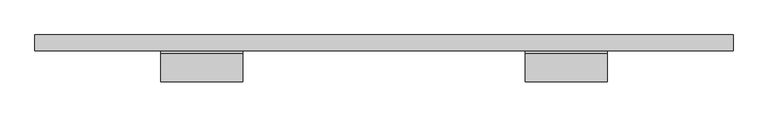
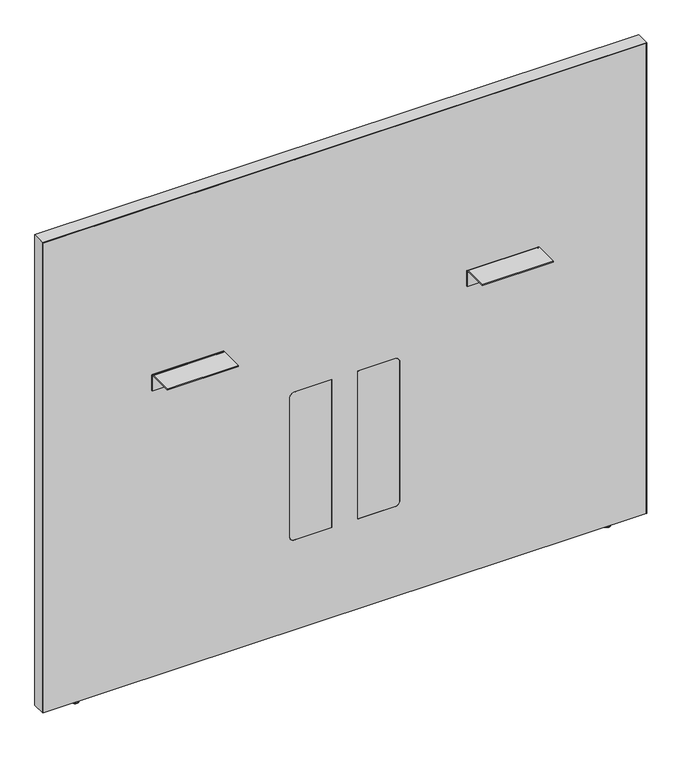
"""IFC4 building model written with IfcOpenShell, lengths in millimetres: furniture geometry, Steelcase - Answer Solution - Boundary Screen - Straight - Spanning : 42H x 51W."""

from ifc_helpers import new_model, si_unit, point, frame, frame_2d, origin, place, context, project, spatial, polyline, circle_curve, ellipse_curve, trimmed, segment, composite_curve, outline, extrude, source, transform, mapped, element, save
from ifc_brep_helpers import plane_surface, cylinder_surface, revolved_surface, advanced_brep


def furniture_0ecd512c(model_context):
    return source(origin(), model_context, "Body", "SolidModel", [
        advanced_brep(
        [(-340.6902705, -14.8449166, 9.9059849), (-340.6902705, -5.9309607, 9.9059849), (-340.6902705, -23.7588726, 9.9059849), (-340.6902705, -5.9309607, 2.9673238), (-340.6902705, -23.7588726, 2.9673238), (-340.6902705, -6.8982978, 2.9673238), (-340.6902705, -22.7915354, 2.9673238), (-340.6902705, -6.8982978, 1.6569081), (-340.6902705, -22.7915354, 1.6569081), (-340.6902705, -8.5552059, 0.0), (-340.6902705, -21.1346274, 0.0), (-340.6902705, -14.8449166, 0.0)],
        [
            (0, 1),
            (1, 2, circle_curve(frame((-340.6902705, -14.8449166, 9.9059849), z_axis=(0.0, 0.0, 1.0), x_axis=(0.0, 1.0, 0.0)), 8.913956)),
            (2, 0),
            (2, 1, circle_curve(frame((-340.6902705, -14.8449166, 9.9059849), z_axis=(0.0, 0.0, 1.0), x_axis=(0.0, 1.0, 0.0)), 8.913956)),
            (1, 3),
            (3, 4, circle_curve(frame((-340.6902705, -14.8449166, 2.9673238), z_axis=(0.0, 0.0, 1.0), x_axis=(0.0, 1.0, 0.0)), 8.913956)),
            (4, 2),
            (4, 3, circle_curve(frame((-340.6902705, -14.8449166, 2.9673238), z_axis=(0.0, 0.0, 1.0), x_axis=(0.0, 1.0, 0.0)), 8.913956)),
            (3, 5),
            (5, 6, circle_curve(frame((-340.6902705, -14.8449166, 2.9673238), z_axis=(0.0, 0.0, 1.0), x_axis=(0.0, 1.0, 0.0)), 7.9466188)),
            (6, 4),
            (6, 5, circle_curve(frame((-340.6902705, -14.8449166, 2.9673238), z_axis=(0.0, 0.0, 1.0), x_axis=(0.0, 1.0, 0.0)), 7.9466188)),
            (5, 7),
            (7, 8, circle_curve(frame((-340.6902705, -14.8449166, 1.6569081), z_axis=(0.0, 0.0, 1.0), x_axis=(0.0, 1.0, 0.0)), 7.9466188)),
            (8, 6),
            (8, 7, circle_curve(frame((-340.6902705, -14.8449166, 1.6569081), z_axis=(0.0, 0.0, 1.0), x_axis=(0.0, 1.0, 0.0)), 7.9466188)),
            (7, 9, circle_curve(frame((-340.6902705, -8.5552059, 1.6569081), z_axis=(-1.0, 0.0, 0.0), x_axis=(0.0, 1.0, 0.0)), 1.6569081)),
            (9, 10, circle_curve(frame((-340.6902705, -14.8449166, 0.0), z_axis=(0.0, 0.0, 1.0), x_axis=(0.0, 1.0, 0.0)), 6.2897107)),
            (10, 8, circle_curve(frame((-340.6902705, -21.1346274, 1.6569081), z_axis=(-1.0, 0.0, 0.0), x_axis=(0.0, -1.0, 0.0)), 1.6569081)),
            (10, 9, circle_curve(frame((-340.6902705, -14.8449166, 0.0), z_axis=(0.0, 0.0, 1.0), x_axis=(0.0, 1.0, 0.0)), 6.2897107)),
            (9, 11),
            (11, 10),
        ],
        [
            plane_surface(frame((-340.6902705, -14.8449166, 9.9059849), z_axis=(0.0, 0.0, 1.0), x_axis=(0.0, 1.0, 0.0))),
            cylinder_surface(frame((-340.6902705, -14.8449166, 9.9059849), z_axis=(0.0, 0.0, 1.0), x_axis=(0.0, 1.0, 0.0)), 8.913956),
            plane_surface(frame((-340.6902705, -14.8449166, 2.9673238), z_axis=(0.0, 0.0, -1.0), x_axis=(0.0, 1.0, 0.0))),
            cylinder_surface(frame((-340.6902705, -14.8449166, 9.9059849), z_axis=(0.0, 0.0, 1.0), x_axis=(0.0, 1.0, 0.0)), 7.9466188),
            revolved_surface(trimmed(ellipse_curve(frame((-340.6902705, -8.5552059, 1.6569081), z_axis=(1.0, 0.0, 0.0), x_axis=(0.0, 1.0, 0.0)), 1.6569081, 1.6569081), [point((-340.6902705, -8.5552059, 0.0))], [point((-340.6902705, -6.8982978, 1.6569081))], True, "CARTESIAN"), (-340.6902705, -14.8449166, 9.9059849), (0.0, 0.0, 1.0)),
            plane_surface(frame((-340.6902705, -14.8449166, 0.0), z_axis=(0.0, 0.0, -1.0), x_axis=(0.0, 1.0, 0.0))),
        ],
        [
            (0, [[1, 2, 3]]),
            (0, [[-3, 4, -1]]),
            (1, [[-2, 5, 6, 7]]),
            (1, [[-4, -7, 8, -5]]),
            (2, [[-6, 9, 10, 11]]),
            (2, [[-8, -11, 12, -9]]),
            (3, [[-10, 13, 14, 15]]),
            (3, [[-12, -15, 16, -13]]),
            (4, [[-14, 17, 18, 19]]),
            (4, [[-16, -19, 20, -17]]),
            (5, [[-18, 21, 22]]),
            (5, [[-20, -22, -21]]),
        ],
    ),
        extrude(outline(composite_curve([segment(polyline([(-86.8398151, 696.4680019), (-86.8398151, 698.5), (-34.9450855, 698.5)]), True, "CONTINUOUS"), segment(trimmed(circle_curve(frame_2d((-34.9450855, 693.2447477)), 5.2552523), [point((-34.9450855, 698.5))], [point((-29.6898332, 693.2447477))], False, "CARTESIAN"), True, "CONTINUOUS"), segment(polyline([(-29.6898332, 693.2447477), (-29.6898332, 660.4), (-31.7218162, 660.4), (-31.7218162, 693.0058743)]), True, "CONTINUOUS"), segment(trimmed(circle_curve(frame_2d((-35.1839438, 693.0058743)), 3.4621276), [point((-31.7218162, 693.0058743))], [point((-35.1839438, 696.4680019))], True, "CARTESIAN"), True, "CONTINUOUS"), segment(polyline([(-35.1839438, 696.4680019), (-86.8398151, 696.4680019)]), True, "CONTINUOUS")], self_intersect=False)), frame((491.6282189, 0.0, 0.0), z_axis=(1.0, 0.0, 0.0), x_axis=(0.0, 1.0, 0.0)), (0.0, 0.0, 1.0), 152.4000969),
        extrude(outline(composite_curve([segment(polyline([(-86.8398151, 696.4680019), (-86.8398151, 698.5), (-34.9450855, 698.5)]), True, "CONTINUOUS"), segment(trimmed(circle_curve(frame_2d((-34.9450855, 693.2447477)), 5.2552523), [point((-34.9450855, 698.5))], [point((-29.6898332, 693.2447477))], False, "CARTESIAN"), True, "CONTINUOUS"), segment(polyline([(-29.6898332, 693.2447477), (-29.6898332, 660.4), (-31.7218162, 660.4), (-31.7218162, 693.0058743)]), True, "CONTINUOUS"), segment(trimmed(circle_curve(frame_2d((-35.1839438, 693.0058743)), 3.4621276), [point((-31.7218162, 693.0058743))], [point((-35.1839438, 696.4680019))], True, "CARTESIAN"), True, "CONTINUOUS"), segment(polyline([(-35.1839438, 696.4680019), (-86.8398151, 696.4680019)]), True, "CONTINUOUS")], self_intersect=False)), frame((-184.3884581, 0.0, 0.0), z_axis=(1.0, 0.0, 0.0), x_axis=(0.0, 1.0, 0.0)), (0.0, 0.0, 1.0), 152.4000969),
        advanced_brep(
        [(800.3286488, -23.7588726, 9.9059849), (800.3286488, -5.9309607, 9.9059849), (800.3286488, -14.8449166, 9.9059849), (800.3286488, -23.7588726, 2.9673238), (800.3286488, -5.9309607, 2.9673238), (800.3286488, -22.7915354, 2.9673238), (800.3286488, -6.8982978, 2.9673238), (800.3286488, -22.7915354, 1.6569081), (800.3286488, -6.8982978, 1.6569081), (800.3286488, -21.1346274, 0.0), (800.3286488, -8.5552059, 0.0), (800.3286488, -14.8449166, 0.0)],
        [
            (0, 1, circle_curve(frame((800.3286488, -14.8449166, 9.9059849), z_axis=(0.0, 0.0, 1.0), x_axis=(0.0, 1.0, 0.0)), 8.913956)),
            (1, 2),
            (2, 0),
            (1, 0, circle_curve(frame((800.3286488, -14.8449166, 9.9059849), z_axis=(0.0, 0.0, 1.0), x_axis=(0.0, 1.0, 0.0)), 8.913956)),
            (3, 4, circle_curve(frame((800.3286488, -14.8449166, 2.9673238), z_axis=(0.0, 0.0, 1.0), x_axis=(0.0, 1.0, 0.0)), 8.913956)),
            (4, 1),
            (0, 3),
            (4, 3, circle_curve(frame((800.3286488, -14.8449166, 2.9673238), z_axis=(0.0, 0.0, 1.0), x_axis=(0.0, 1.0, 0.0)), 8.913956)),
            (5, 6, circle_curve(frame((800.3286488, -14.8449166, 2.9673238), z_axis=(0.0, 0.0, 1.0), x_axis=(0.0, 1.0, 0.0)), 7.9466188)),
            (6, 4),
            (3, 5),
            (6, 5, circle_curve(frame((800.3286488, -14.8449166, 2.9673238), z_axis=(0.0, 0.0, 1.0), x_axis=(0.0, 1.0, 0.0)), 7.9466188)),
            (7, 8, circle_curve(frame((800.3286488, -14.8449166, 1.6569081), z_axis=(0.0, 0.0, 1.0), x_axis=(0.0, 1.0, 0.0)), 7.9466188)),
            (8, 6),
            (5, 7),
            (8, 7, circle_curve(frame((800.3286488, -14.8449166, 1.6569081), z_axis=(0.0, 0.0, 1.0), x_axis=(0.0, 1.0, 0.0)), 7.9466188)),
            (9, 10, circle_curve(frame((800.3286488, -14.8449166, 0.0), z_axis=(0.0, 0.0, 1.0), x_axis=(0.0, 1.0, 0.0)), 6.2897107)),
            (10, 8, circle_curve(frame((800.3286488, -8.5552059, 1.6569081), z_axis=(1.0, 0.0, 0.0), x_axis=(0.0, 1.0, 0.0)), 1.6569081)),
            (7, 9, circle_curve(frame((800.3286488, -21.1346274, 1.6569081), z_axis=(1.0, 0.0, 0.0), x_axis=(0.0, -1.0, 0.0)), 1.6569081)),
            (10, 9, circle_curve(frame((800.3286488, -14.8449166, 0.0), z_axis=(0.0, 0.0, 1.0), x_axis=(0.0, 1.0, 0.0)), 6.2897107)),
            (11, 10),
            (9, 11),
        ],
        [
            plane_surface(frame((800.3286488, -14.8449166, 9.9059849), z_axis=(0.0, 0.0, 1.0), x_axis=(0.0, 1.0, 0.0))),
            cylinder_surface(frame((800.3286488, -14.8449166, 9.9059849), z_axis=(0.0, 0.0, -1.0), x_axis=(0.0, 1.0, 0.0)), 8.913956),
            plane_surface(frame((800.3286488, -14.8449166, 2.9673238), z_axis=(0.0, 0.0, -1.0), x_axis=(0.0, 1.0, 0.0))),
            cylinder_surface(frame((800.3286488, -14.8449166, 9.9059849), z_axis=(0.0, 0.0, -1.0), x_axis=(0.0, 1.0, 0.0)), 7.9466188),
            revolved_surface(trimmed(ellipse_curve(frame((800.3286488, -8.5552059, 1.6569081), z_axis=(-1.0, 0.0, 0.0), x_axis=(0.0, 1.0, 0.0)), 1.6569081, 1.6569081), [point((800.3286488, -6.8982978, 1.6569081))], [point((800.3286488, -8.5552059, 0.0))], True, "CARTESIAN"), (800.3286488, -14.8449166, 9.9059849), (0.0, 0.0, -1.0)),
            plane_surface(frame((800.3286488, -14.8449166, 0.0), z_axis=(0.0, 0.0, -1.0), x_axis=(0.0, 1.0, 0.0))),
        ],
        [
            (0, [[1, 2, 3]]),
            (0, [[4, -3, -2]]),
            (1, [[5, 6, -1, 7]]),
            (1, [[8, -7, -4, -6]]),
            (2, [[9, 10, -5, 11]]),
            (2, [[12, -11, -8, -10]]),
            (3, [[13, 14, -9, 15]]),
            (3, [[16, -15, -12, -14]]),
            (4, [[17, 18, -13, 19]]),
            (4, [[20, -19, -16, -18]]),
            (5, [[21, -17, 22]]),
            (5, [[-22, -20, -21]]),
        ],
    ),
        advanced_brep(
        [(876.4780168, 0.0, 1076.742118), (876.4780168, 0.0, 9.9059849), (-416.8902221, 0.0, 9.9059849), (-416.8902221, 0.0, 1076.742118), (876.4780168, -29.6898332, 1076.742118), (-416.8902221, -29.6898332, 1076.742118), (-416.8902221, -29.6898332, 9.9059849), (876.4780168, -29.6898332, 9.9059849), (337.7883813, -29.6898332, 549.6162029), (347.9483813, -29.6898332, 539.4562029), (347.9483813, -29.6898332, 223.9362137), (337.7883813, -29.6898332, 213.7762137), (258.1344836, -29.6898332, 213.7762137), (258.1344836, -29.6898332, 549.6162029), (121.849997, -29.6898332, 549.6162029), (201.5038947, -29.6898332, 549.6162029), (201.5038947, -29.6898332, 213.7762137), (121.849997, -29.6898332, 213.7762137), (111.689997, -29.6898332, 223.9362137), (111.689997, -29.6898332, 539.4562029), (258.1344836, -29.0550397, 549.6162029), (337.7883813, -29.0550397, 549.6162029), (258.1344836, -29.0550397, 213.7762137), (337.7883813, -29.0550397, 213.7762137), (347.9483813, -29.0550397, 223.9362137), (347.9483813, -29.0550397, 539.4562029), (121.849997, -29.0550397, 549.6162029), (111.689997, -29.0550397, 539.4562029), (111.689997, -29.0550397, 223.9362137), (121.849997, -29.0550397, 213.7762137), (201.5038947, -29.0550397, 213.7762137), (201.5038947, -29.0550397, 549.6162029)],
        [
            (0, 1),
            (1, 2),
            (2, 3),
            (3, 0),
            (4, 5),
            (5, 6),
            (6, 7),
            (7, 4),
            (8, 9, circle_curve(frame((337.7883813, -29.6898332, 539.4562029), z_axis=(0.0, 1.0, 0.0), x_axis=(0.0, 0.0, 1.0)), 10.16)),
            (9, 10),
            (10, 11, circle_curve(frame((337.7883813, -29.6898332, 223.9362137), z_axis=(0.0, 1.0, 0.0), x_axis=(0.0, 0.0, 1.0)), 10.16)),
            (11, 12),
            (12, 13),
            (13, 8),
            (14, 15),
            (15, 16),
            (16, 17),
            (17, 18, circle_curve(frame((121.849997, -29.6898332, 223.9362137), z_axis=(0.0, 1.0, 0.0), x_axis=(0.0, 0.0, 1.0)), 10.16)),
            (18, 19),
            (19, 14, circle_curve(frame((121.849997, -29.6898332, 539.4562029), z_axis=(0.0, 1.0, 0.0), x_axis=(0.0, 0.0, 1.0)), 10.16)),
            (0, 4),
            (7, 1),
            (6, 2),
            (5, 3),
            (13, 20),
            (20, 21),
            (21, 8),
            (12, 22),
            (22, 20),
            (11, 23),
            (23, 22),
            (10, 24),
            (24, 23, circle_curve(frame((337.7883813, -29.0550397, 223.9362137), z_axis=(0.0, 1.0, 0.0), x_axis=(0.0, 0.0, 1.0)), 10.16)),
            (9, 25),
            (25, 24),
            (21, 25, circle_curve(frame((337.7883813, -29.0550397, 539.4562029), z_axis=(0.0, 1.0, 0.0), x_axis=(0.0, 0.0, 1.0)), 10.16)),
            (26, 27, circle_curve(frame((121.849997, -29.0550397, 539.4562029), z_axis=(0.0, -1.0, 0.0), x_axis=(0.0, 0.0, 1.0)), 10.16)),
            (27, 28),
            (28, 29, circle_curve(frame((121.849997, -29.0550397, 223.9362137), z_axis=(0.0, -1.0, 0.0), x_axis=(0.0, 0.0, 1.0)), 10.16)),
            (29, 30),
            (30, 31),
            (31, 26),
            (19, 27),
            (26, 14),
            (18, 28),
            (17, 29),
            (16, 30),
            (15, 31),
        ],
        [
            plane_surface(frame((876.4780168, 0.0, 1076.742118), z_axis=(0.0, 1.0, 0.0), x_axis=(0.0, 0.0, -1.0))),
            plane_surface(frame((876.4780168, -29.6898332, 1076.742118), z_axis=(0.0, -1.0, 0.0), x_axis=(0.0, 0.0, 1.0))),
            plane_surface(frame((876.4780168, 0.0, 1076.742118), z_axis=(1.0, 0.0, 0.0), x_axis=(0.0, -1.0, 0.0))),
            plane_surface(frame((876.4780168, 0.0, 9.9059849), z_axis=(0.0, 0.0, -1.0), x_axis=(0.0, -1.0, 0.0))),
            plane_surface(frame((-416.8902221, 0.0, 9.9059849), z_axis=(-1.0, 0.0, 0.0), x_axis=(0.0, -1.0, 0.0))),
            plane_surface(frame((-416.8902221, 0.0, 1076.742118), z_axis=(0.0, 0.0, 1.0), x_axis=(0.0, -1.0, 0.0))),
            plane_surface(frame((337.7883813, 0.0, 549.6162029), z_axis=(0.0, 0.0, -1.0), x_axis=(0.0, -1.0, 0.0))),
            plane_surface(frame((258.1344836, 0.0, 549.6162029), z_axis=(1.0, 0.0, 0.0), x_axis=(0.0, -1.0, 0.0))),
            plane_surface(frame((258.1344836, 0.0, 213.7762137), z_axis=(0.0, 0.0, 1.0), x_axis=(0.0, -1.0, 0.0))),
            revolved_surface(polyline([(337.7883813, -29.6898332, 234.0962137), (337.7883813, -29.0550397, 234.0962137)]), (337.7883813, -29.6898332, 223.9362137), (0.0, -1.0, 0.0)),
            plane_surface(frame((347.9483813, 0.0, 223.9362137), z_axis=(-1.0, 0.0, 0.0), x_axis=(0.0, -1.0, 0.0))),
            revolved_surface(polyline([(337.7883813, -29.6898332, 549.6162029), (337.7883813, -29.0550397, 549.6162029)]), (337.7883813, -29.6898332, 539.4562029), (0.0, -1.0, 0.0)),
            plane_surface(frame((347.9483813, -29.0550397, 549.6162029), z_axis=(0.0, -1.0, 0.0), x_axis=(0.0, 0.0, 1.0))),
            revolved_surface(polyline([(121.849997, -29.6898332, 549.6162029), (121.849997, -29.0550397, 549.6162029)]), (121.849997, -29.6898332, 539.4562029), (0.0, -1.0, 0.0)),
            plane_surface(frame((111.689997, 0.0, 539.4562029), z_axis=(1.0, 0.0, 0.0), x_axis=(0.0, -1.0, 0.0))),
            revolved_surface(polyline([(121.849997, -29.6898332, 234.0962137), (121.849997, -29.0550397, 234.0962137)]), (121.849997, -29.6898332, 223.9362137), (0.0, -1.0, 0.0)),
            plane_surface(frame((121.849997, 0.0, 213.7762137), z_axis=(0.0, 0.0, 1.0), x_axis=(0.0, -1.0, 0.0))),
            plane_surface(frame((201.5038947, 0.0, 213.7762137), z_axis=(-1.0, 0.0, 0.0), x_axis=(0.0, -1.0, 0.0))),
            plane_surface(frame((201.5038947, 0.0, 549.6162029), z_axis=(0.0, 0.0, -1.0), x_axis=(0.0, -1.0, 0.0))),
        ],
        [
            (0, [[1, 2, 3, 4]]),
            (1, [[5, 6, 7, 8], [9, 10, 11, 12, 13, 14], [15, 16, 17, 18, 19, 20]]),
            (2, [[-1, 21, -8, 22]]),
            (3, [[-2, -22, -7, 23]]),
            (4, [[-3, -23, -6, 24]]),
            (5, [[-4, -24, -5, -21]]),
            (6, [[-14, 25, 26, 27]]),
            (7, [[-13, 28, 29, -25]]),
            (8, [[-12, 30, 31, -28]]),
            (9, [[-11, 32, 33, -30]]),
            (10, [[-10, 34, 35, -32]]),
            (11, [[-9, -27, 36, -34]]),
            (12, [[-26, -29, -31, -33, -35, -36]]),
            (12, [[37, 38, 39, 40, 41, 42]]),
            (13, [[-20, 43, -37, 44]]),
            (14, [[-19, 45, -38, -43]]),
            (15, [[-18, 46, -39, -45]]),
            (16, [[-17, 47, -40, -46]]),
            (17, [[-16, 48, -41, -47]]),
            (18, [[-15, -44, -42, -48]]),
        ],
    ),
        extrude(outline(composite_curve([segment(polyline([(549.6162029, 337.7883813), (549.6162029, 258.1344836), (213.7762137, 258.1344836), (213.7762137, 337.7883813)]), True, "CONTINUOUS"), segment(trimmed(circle_curve(frame_2d((223.9362137, 337.7883813)), 10.16), [point((213.7762137, 337.7883813))], [point((223.9362137, 347.9483813))], False, "CARTESIAN"), True, "CONTINUOUS"), segment(polyline([(223.9362137, 347.9483813), (539.4562029, 347.9483813)]), True, "CONTINUOUS"), segment(trimmed(circle_curve(frame_2d((539.4562029, 337.7883813)), 10.16), [point((539.4562029, 347.9483813))], [point((549.6162029, 337.7883813))], False, "CARTESIAN"), True, "CONTINUOUS")], self_intersect=False)), frame((0.0, -29.6898332, 0.0), z_axis=(0.0, 1.0, 0.0), x_axis=(0.0, 0.0, 1.0)), (0.0, 0.0, 1.0), 0.6347935),
        extrude(outline(composite_curve([segment(trimmed(circle_curve(frame_2d((539.4562029, 121.849997)), 10.16), [point((549.6162029, 121.849997))], [point((539.4562029, 111.689997))], False, "CARTESIAN"), True, "CONTINUOUS"), segment(polyline([(539.4562029, 111.689997), (223.9362137, 111.689997)]), True, "CONTINUOUS"), segment(trimmed(circle_curve(frame_2d((223.9362137, 121.849997)), 10.16), [point((223.9362137, 111.689997))], [point((213.7762137, 121.849997))], False, "CARTESIAN"), True, "CONTINUOUS"), segment(polyline([(213.7762137, 121.849997), (213.7762137, 201.5038947), (549.6162029, 201.5038947), (549.6162029, 121.849997)]), True, "CONTINUOUS")], self_intersect=False)), frame((0.0, -29.6898332, 0.0), z_axis=(0.0, 1.0, 0.0), x_axis=(0.0, 0.0, 1.0)), (0.0, 0.0, 1.0), 0.6347935),
        extrude(outline(polyline([(1077.722, 877.5191891), (1077.722, -417.8808109), (9.9059849, -417.8808109), (9.9059849, -416.8902221), (1076.742118, -416.8902221), (1076.742118, 876.4780168), (9.9059849, 876.4780168), (9.9059849, 877.5191891), (1077.722, 877.5191891)])), frame((0.0, -29.6898332, 0.0), z_axis=(0.0, 1.0, 0.0), x_axis=(0.0, 0.0, 1.0)), (0.0, 0.0, 1.0), 29.6898332),
    ])


if __name__ == "__main__":
    model = new_model("IFC4")
    model_context = context("Model", 3, world=origin())
    ifc_project = project(units=[si_unit("LENGTHUNIT", "METRE", prefix="MILLI")], contexts=[model_context])
    site = spatial("IfcSite", under=ifc_project)
    building = spatial("IfcBuilding", under=site)
    placement = place(None, origin())
    furniture_shape = furniture_0ecd512c(model_context)
    element("IfcFurniture", 1, ObjectType="Steelcase - Answer Solution - Boundary Screen - Straight - Spanning : 42H x 51W", at=placement, inside=building, context=model_context, shape_type="MappedRepresentation", body=[
        mapped(furniture_shape, transform((0.0, 0.0, 0.0), x_axis=(1.0, 0.0, 0.0), y_axis=(0.0, 1.0, 0.0), z_axis=(0.0, 0.0, 1.0))),
    ])
    save(model, "model.ifc")
